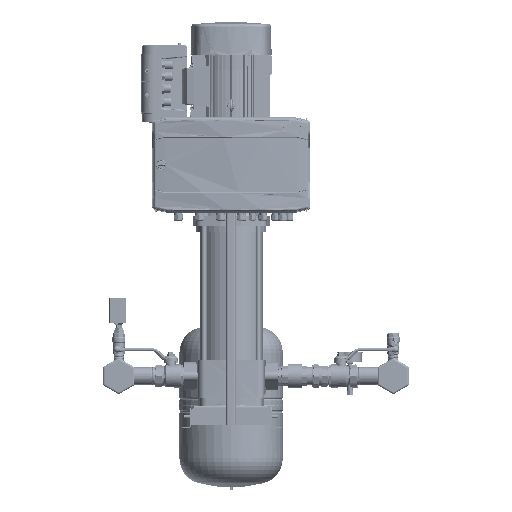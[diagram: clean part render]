
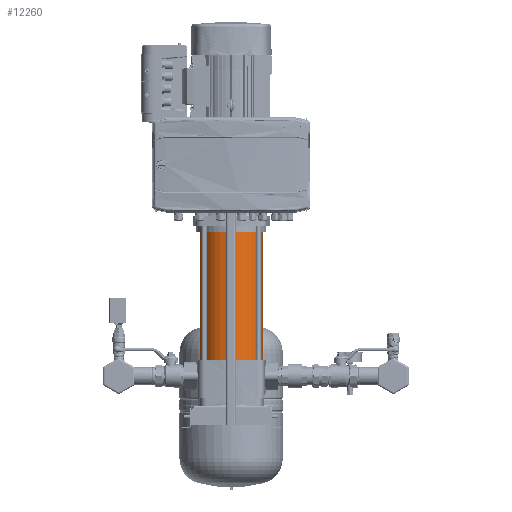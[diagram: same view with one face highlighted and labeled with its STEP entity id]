
A CAD part, left-side view. The second image highlights one B-rep face of the part: STEP entity #12260.
In plain terms, the highlighted cylindrical face has radius 85.35 mm (diameter 170.7 mm), a partial arc.
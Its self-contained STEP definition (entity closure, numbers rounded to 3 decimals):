
#12190=CARTESIAN_POINT('Axis2P3D Location',(374.,0.,0.)) ;
#12194=CARTESIAN_POINT('Vertex',(374.,-85.35,0.)) ;
#12196=CARTESIAN_POINT('Vertex',(374.,85.35,0.)) ;
#12217=CARTESIAN_POINT('Axis2P3D Location',(0.,0.,0.)) ;
#12222=CARTESIAN_POINT('Line Origine',(0.,-85.35,0.)) ;
#12226=CARTESIAN_POINT('Vertex',(0.,-85.35,0.)) ;
#12233=CARTESIAN_POINT('Vertex',(0.,85.35,0.)) ;
#12236=CARTESIAN_POINT('Line Origine',(0.,85.35,0.)) ;
#12249=CARTESIAN_POINT('Axis2P3D Location',(0.,0.,0.)) ;
#12224=VECTOR('Line Direction',#12223,1.) ;
#12238=VECTOR('Line Direction',#12237,1.) ;
#12191=DIRECTION('Axis2P3D Direction',(-1.,0.,0.)) ;
#12218=DIRECTION('Axis2P3D Direction',(1.,0.,0.)) ;
#12219=DIRECTION('Axis2P3D XDirection',(0.,-1.,0.)) ;
#12223=DIRECTION('Vector Direction',(1.,0.,0.)) ;
#12237=DIRECTION('Vector Direction',(1.,0.,0.)) ;
#12250=DIRECTION('Axis2P3D Direction',(1.,0.,0.)) ;
#12192=AXIS2_PLACEMENT_3D('Circle Axis2P3D',#12190,#12191,$) ;
#12220=AXIS2_PLACEMENT_3D('Cylinder Axis2P3D',#12217,#12218,#12219) ;
#12251=AXIS2_PLACEMENT_3D('Circle Axis2P3D',#12249,#12250,$) ;
#12225=LINE('Line',#12222,#12224) ;
#12239=LINE('Line',#12236,#12238) ;
#12193=CIRCLE('generated circle',#12192,85.35) ;
#12252=CIRCLE('generated circle',#12251,85.35) ;
#12221=CYLINDRICAL_SURFACE('generated cylinder',#12220,85.35) ;
#12198=EDGE_CURVE('',#12195,#12197,#12193,.T.) ;
#12228=EDGE_CURVE('',#12195,#12227,#12225,.F.) ;
#12240=EDGE_CURVE('',#12234,#12197,#12239,.T.) ;
#12253=EDGE_CURVE('',#12227,#12234,#12252,.F.) ;
#12255=ORIENTED_EDGE('',*,*,#12240,.F.) ;
#12256=ORIENTED_EDGE('',*,*,#12253,.F.) ;
#12257=ORIENTED_EDGE('',*,*,#12228,.F.) ;
#12258=ORIENTED_EDGE('',*,*,#12198,.T.) ;
#12254=EDGE_LOOP('',(#12255,#12256,#12257,#12258)) ;
#12195=VERTEX_POINT('',#12194) ;
#12197=VERTEX_POINT('',#12196) ;
#12227=VERTEX_POINT('',#12226) ;
#12234=VERTEX_POINT('',#12233) ;
#12260=ADVANCED_FACE('Solid1',(#12259),#12221,.T.) ;
#12259=FACE_OUTER_BOUND('',#12254,.T.) ;
